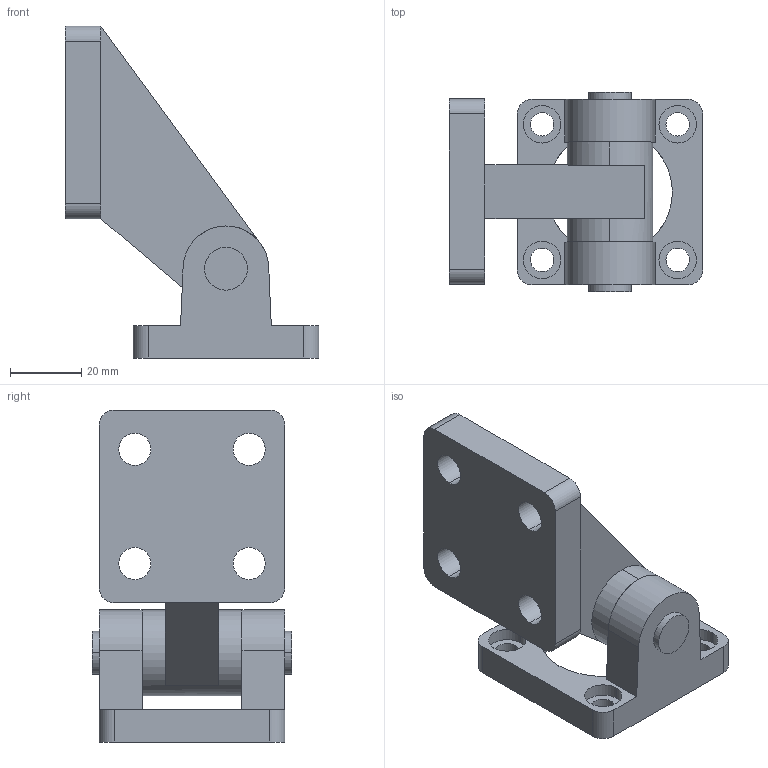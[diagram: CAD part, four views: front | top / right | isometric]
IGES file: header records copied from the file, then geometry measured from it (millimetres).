
Global section: file name: No Iges File Name specified; native system: AutoDesk Inventor R11.0; preprocessor: AutoDesk Inventor Iges Exporter R11.0; author: No Author specified; organization: No Organization specified; date: 20060712.122521; units: millimetre
Bounding box: 71 x 56 x 93 mm (x, y, z)
Volume: 87539.5 mm3; surface area: 26713.3 mm2
Topology: 2 solids, 2 shells, 80 faces, 207 edges, 136 vertices
Faces by surface type: bspline 34, plane 28, cylinder 18
